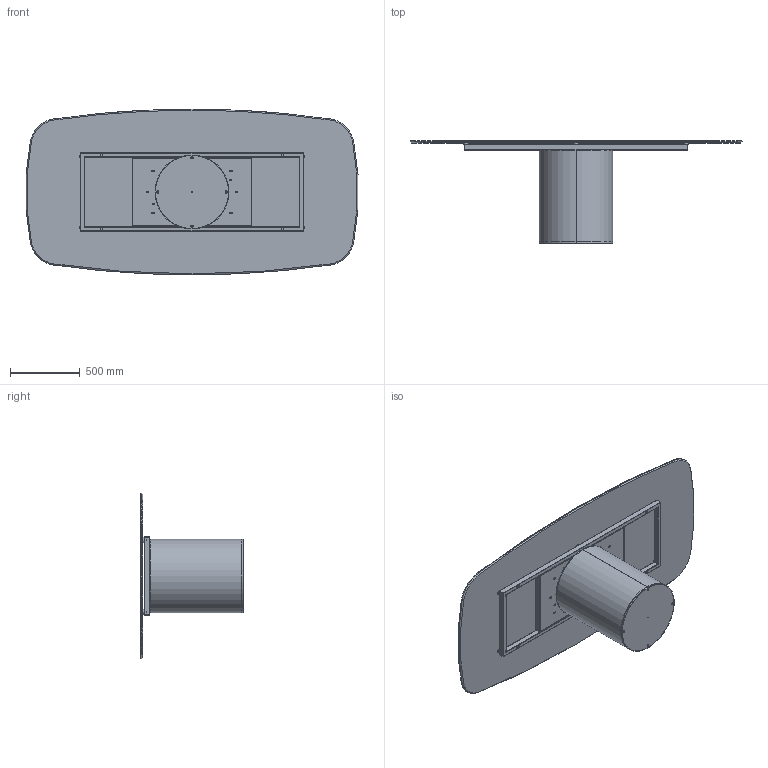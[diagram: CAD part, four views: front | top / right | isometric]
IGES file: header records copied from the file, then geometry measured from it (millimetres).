
Start section: SolidWorks IGES file using analytic representation for surfaces
Global section: file name: Y:\eforma\TECNICO\SOLIDWORKS\E-FORMA\1-TAVOLI\CILINDRO\02 parts\CI42C.IGS; native system: SolidWorks 2022; preprocessor: SolidWorks 2022; author: eforma.tech; date: 240808.092605; units: millimetre
Bounding box: 2382.15 x 736 x 1190 mm (x, y, z)
Volume: 50447347 mm3; surface area: 15675578.2 mm2
Topology: 25 solids, 25 shells, 589 faces, 1379 edges, 816 vertices
Faces by surface type: revolution 335, plane 254
